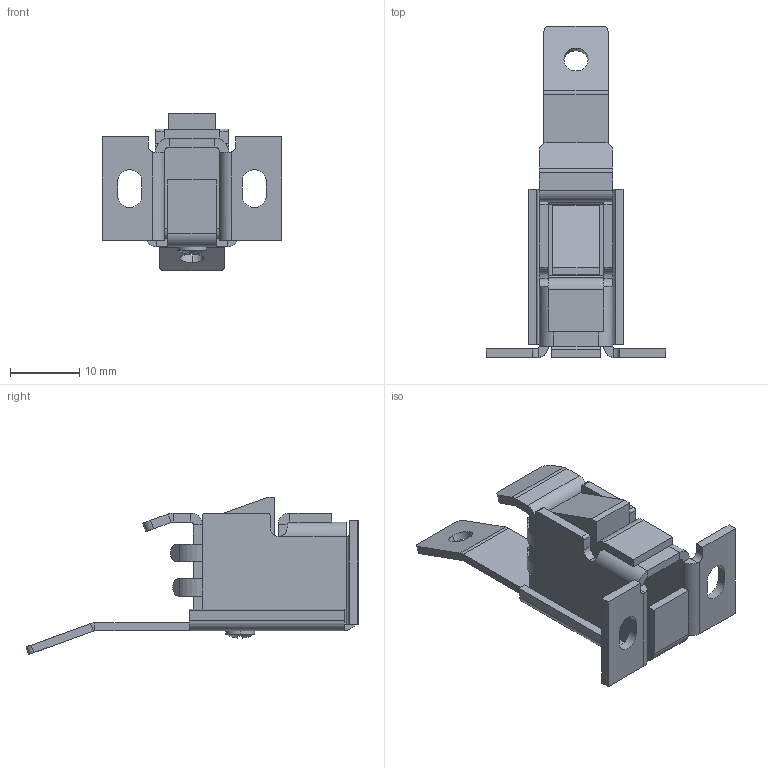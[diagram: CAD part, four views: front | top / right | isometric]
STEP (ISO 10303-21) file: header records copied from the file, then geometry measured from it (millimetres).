
FILE_DESCRIPTION (( 'STEP AP214' ), '1' );
FILE_NAME ('PCBL1.STEP', '2024-02-06T09:33:00', ( '' ), ( '' ), 'SwSTEP 2.0', 'SolidWorks 2022', '' );
FILE_SCHEMA (( 'AUTOMOTIVE_DESIGN' ));
Length unit declared in the file: millimetre
Products named in the file (1): PCBL1
Bounding box: 26 x 47.96 x 22.69 mm (x, y, z)
Volume: 3324.1 mm3; surface area: 5589.8 mm2
Topology: 6 solids, 6 shells, 279 faces, 665 edges, 400 vertices
Faces by surface type: plane 195, cylinder 82, sphere 2
Entity records: 8028 total; most frequent: DIRECTION 1399, CARTESIAN_POINT 1383, ORIENTED_EDGE 1330, EDGE_CURVE 665, VECTOR 479, LINE 479, AXIS2_PLACEMENT_3D 460, VERTEX_POINT 400
